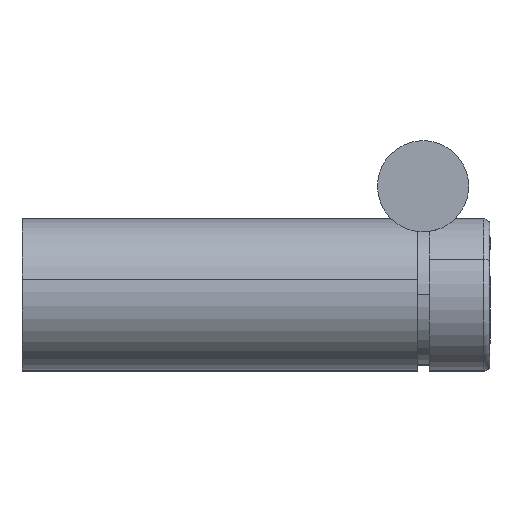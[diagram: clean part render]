
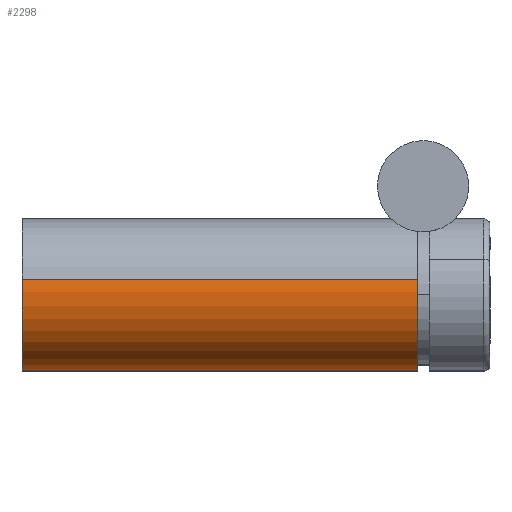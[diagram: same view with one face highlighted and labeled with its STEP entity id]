
A CAD part, top view. The second image highlights one B-rep face of the part: STEP entity #2298.
In plain terms, the highlighted cylindrical face has radius 12.5 mm (diameter 25 mm), a partial arc.
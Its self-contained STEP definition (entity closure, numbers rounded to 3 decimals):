
#125 = ORIENTED_EDGE ( 'NONE', *, *, #677, .F. ) ;
#388 = DIRECTION ( 'NONE',  ( 0., 1., 0. ) ) ;
#652 = VECTOR ( 'NONE', #7100, 1000. ) ;
#677 = EDGE_CURVE ( 'NONE', #2890, #1040, #5965, .T. ) ;
#684 = VERTEX_POINT ( 'NONE', #3656 ) ;
#815 = EDGE_CURVE ( 'NONE', #6999, #684, #1379, .T. ) ;
#903 = ORIENTED_EDGE ( 'NONE', *, *, #6847, .F. ) ;
#995 = DIRECTION ( 'NONE',  ( 0., -1., 0. ) ) ;
#1040 = VERTEX_POINT ( 'NONE', #1428 ) ;
#1379 = CIRCLE ( 'NONE', #4553, 12.5 ) ;
#1394 = CARTESIAN_POINT ( 'NONE',  ( 0., 63., 0. ) ) ;
#1428 = CARTESIAN_POINT ( 'NONE',  ( 0., 63., -12.5 ) ) ;
#1702 = LINE ( 'NONE', #3952, #2080 ) ;
#1920 = CYLINDRICAL_SURFACE ( 'NONE', #5769, 12.5 ) ;
#2080 = VECTOR ( 'NONE', #2844, 1000. ) ;
#2193 = AXIS2_PLACEMENT_3D ( 'NONE', #1394, #388, #7133 ) ;
#2298 = ADVANCED_FACE ( 'NONE', ( #6965 ), #1920, .T. ) ;
#2571 = DIRECTION ( 'NONE',  ( 0., -1., 0. ) ) ;
#2844 = DIRECTION ( 'NONE',  ( 0., -1., 0. ) ) ;
#2890 = VERTEX_POINT ( 'NONE', #3609 ) ;
#3329 = CARTESIAN_POINT ( 'NONE',  ( 0., -2., -12.5 ) ) ;
#3609 = CARTESIAN_POINT ( 'NONE',  ( 0., 63., 12.5 ) ) ;
#3625 = CARTESIAN_POINT ( 'NONE',  ( 0., 63., 0. ) ) ;
#3656 = CARTESIAN_POINT ( 'NONE',  ( 0., -2., 12.5 ) ) ;
#3952 = CARTESIAN_POINT ( 'NONE',  ( 0., 63., 12.5 ) ) ;
#4269 = LINE ( 'NONE', #4841, #652 ) ;
#4553 = AXIS2_PLACEMENT_3D ( 'NONE', #4704, #995, #4919 ) ;
#4704 = CARTESIAN_POINT ( 'NONE',  ( 0., -2., 0. ) ) ;
#4841 = CARTESIAN_POINT ( 'NONE',  ( 0., 63., -12.5 ) ) ;
#4919 = DIRECTION ( 'NONE',  ( 0., 0., -1. ) ) ;
#5390 = ORIENTED_EDGE ( 'NONE', *, *, #815, .F. ) ;
#5604 = EDGE_LOOP ( 'NONE', ( #125, #6796, #5390, #903 ) ) ;
#5673 = EDGE_CURVE ( 'NONE', #2890, #684, #1702, .T. ) ;
#5769 = AXIS2_PLACEMENT_3D ( 'NONE', #3625, #2571, #5860 ) ;
#5860 = DIRECTION ( 'NONE',  ( 0., 0., -1. ) ) ;
#5965 = CIRCLE ( 'NONE', #2193, 12.5 ) ;
#6796 = ORIENTED_EDGE ( 'NONE', *, *, #5673, .T. ) ;
#6847 = EDGE_CURVE ( 'NONE', #1040, #6999, #4269, .T. ) ;
#6965 = FACE_OUTER_BOUND ( 'NONE', #5604, .T. ) ;
#6999 = VERTEX_POINT ( 'NONE', #3329 ) ;
#7100 = DIRECTION ( 'NONE',  ( 0., -1., 0. ) ) ;
#7133 = DIRECTION ( 'NONE',  ( 0., 0., 1. ) ) ;
